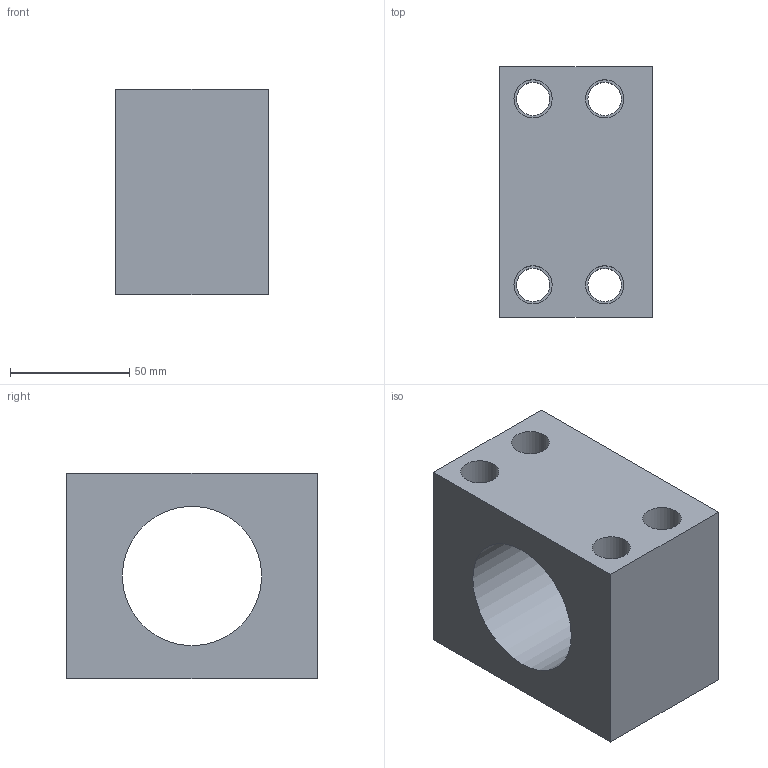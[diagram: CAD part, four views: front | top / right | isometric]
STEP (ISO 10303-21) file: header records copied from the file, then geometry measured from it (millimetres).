
FILE_DESCRIPTION(/* description */ (''),/* implementation_level */ '2;1');
FILE_NAME(/* name */ 'NH32C.stp',/* time_stamp */ '2017-08-19T13:35:20+08:00',/* author */ (''),/* organization */ (''),/* preprocessor_version */ 'ST-DEVELOPER v15',/* originating_system */ 'SIEMENS PLM Software NX 9.0',/* authorisation */ '');
FILE_SCHEMA (('CONFIG_CONTROL_DESIGN'));
Length unit declared in the file: millimetre
Products named in the file (1): NH32C
Bounding box: 64 x 105 x 86 mm (x, y, z)
Volume: 332747.6 mm3; surface area: 66225.4 mm2
Topology: 1 solids, 1 shells, 39 faces, 93 edges, 64 vertices
Faces by surface type: cylinder 19, plane 14, cone 6
Full cylindrical faces by diameter (mm): 5.2 x6, 14 x4, 16 x4, 22 x4, 58.4 x1
Entity records: 994 total; most frequent: DIRECTION 168, CARTESIAN_POINT 142, ORIENTED_EDGE 100, FACE_BOUND 86, EDGE_LOOP 82, AXIS2_PLACEMENT_3D 78, VERTEX_POINT 52, EDGE_CURVE 50
